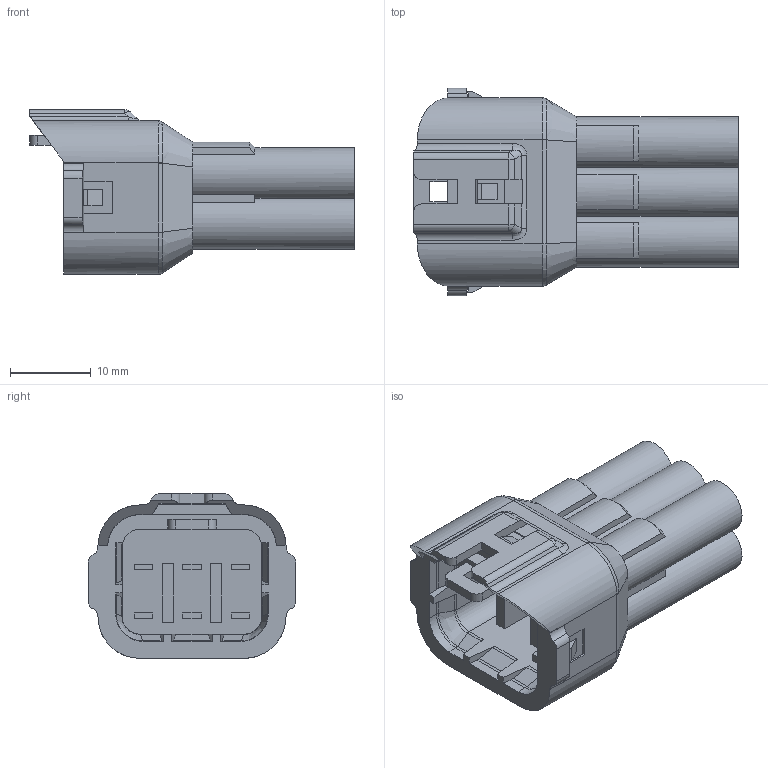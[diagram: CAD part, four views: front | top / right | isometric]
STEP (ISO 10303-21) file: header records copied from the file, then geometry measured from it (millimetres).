
FILE_DESCRIPTION(('CATIA V5 STEP Exchange','CAx-IF Rec.Pracs.--- Model Styling and Organization---1.2---2011-12-15'),'2;1');
FILE_NAME('N:\C-DAM_MyDesk\ENV\900093\6189-6171.stp','2015-01-26T23:44:30+00:00',('none'),('none'),'CATIA Version 5-6 Release 2012 SP4 HF74','CATIA V5 STEP AP214','none');
FILE_SCHEMA(('AUTOMOTIVE_DESIGN { 1 0 10303 214 1 1 1 1 }'));
Length unit declared in the file: millimetre
Products named in the file (1): 6189-6171
Bounding box: 40.2 x 25.7 x 20.4 mm (x, y, z)
Volume: 7403.3 mm3; surface area: 4970.6 mm2
Topology: 1 solids, 1 shells, 286 faces, 762 edges, 489 vertices
Faces by surface type: plane 175, cylinder 72, bspline 34, cone 3, sphere 2
Entity records: 9989 total; most frequent: CARTESIAN_POINT 3520, ORIENTED_EDGE 1520, DIRECTION 993, EDGE_CURVE 760, VECTOR 505, LINE 505, VERTEX_POINT 489, EDGE_LOOP 303
